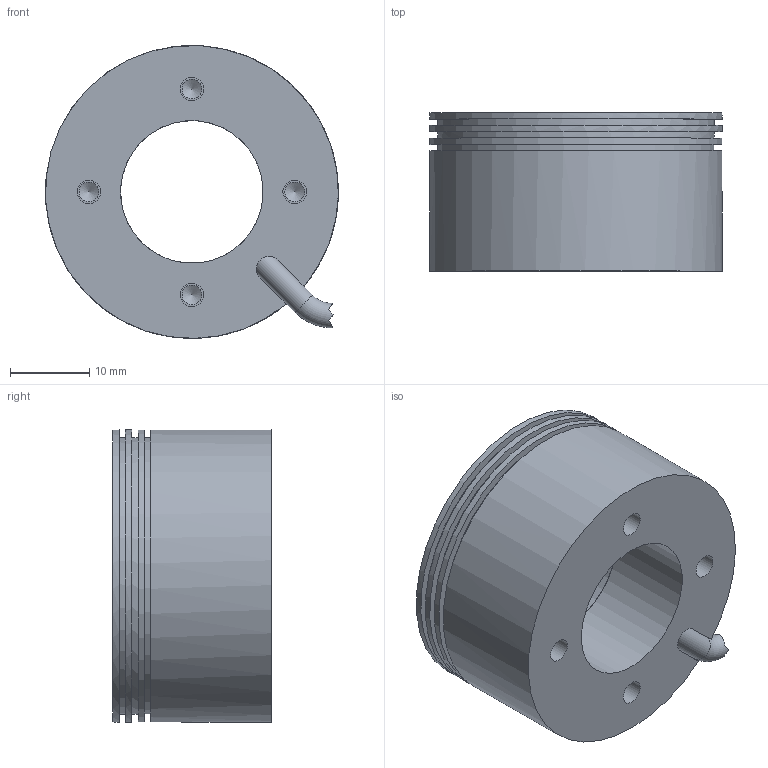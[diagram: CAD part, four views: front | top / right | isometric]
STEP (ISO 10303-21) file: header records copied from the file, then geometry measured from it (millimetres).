
FILE_DESCRIPTION(/* description */ (''),/* implementation_level */ '2;1');
FILE_NAME(/* name */ 'C:\#Vault-WorkDir\Konstruktions-Dokumente\Projekte\Zubehör allgemein\Falcon Beleuchtungen\153-00726_LR 32 W-24-KFL5.pdf.stp',/* time_stamp */ '2018-07-25T08:39:15+02:00',/* author */ ('SensoPart'),/* organization */ ('SensoPart'),/* preprocessor_version */ 'ST-DEVELOPER v17',/* originating_system */ 'Autodesk Inventor 2018',/* authorisation */ '');
FILE_SCHEMA (('AUTOMOTIVE_DESIGN { 1 0 10303 214 3 1 1 }'));
Length unit declared in the file: millimetre
Products named in the file (1): GH-ENG-0026473_Shrinkwrap_1
Bounding box: 36.97 x 20 x 36.98 mm (x, y, z)
Volume: 16012 mm3; surface area: 8593 mm2
Topology: 3 solids, 3 shells, 54 faces, 138 edges, 103 vertices
Faces by surface type: plane 25, cylinder 24, cone 4, torus 1
Full cylindrical faces by diameter (mm): 2.5 x4, 3 x4, 3.1 x1, 3.2 x1, 18 x2, 21 x2, 32.1 x2, 35 x3, 37 x4
Entity records: 1875 total; most frequent: CARTESIAN_POINT 360, DIRECTION 324, ORIENTED_EDGE 268, AXIS2_PLACEMENT_3D 143, EDGE_CURVE 134, VERTEX_POINT 103, CIRCLE 86, EDGE_LOOP 75
